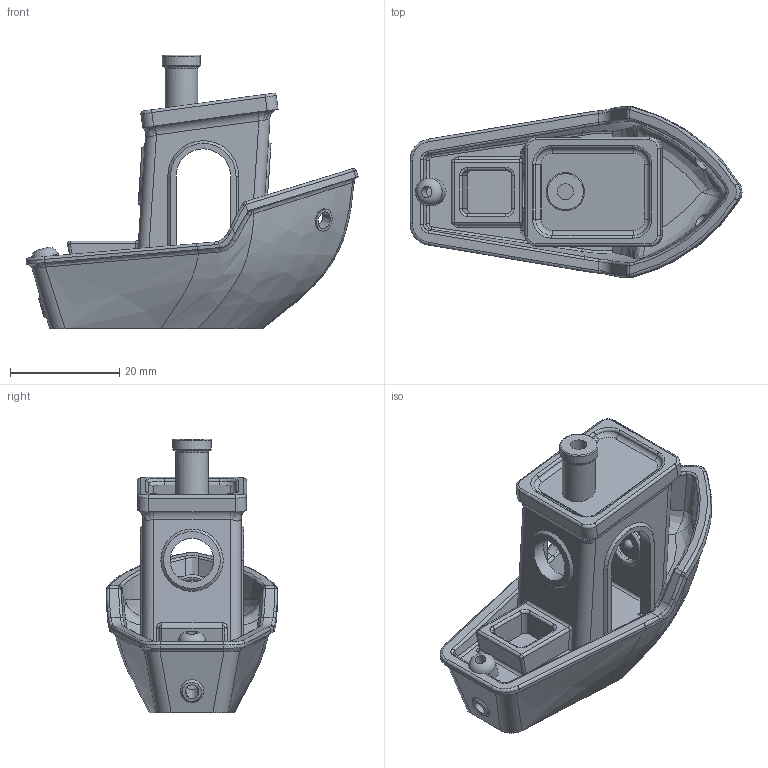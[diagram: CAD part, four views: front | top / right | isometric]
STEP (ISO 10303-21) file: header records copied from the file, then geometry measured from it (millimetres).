
FILE_DESCRIPTION(('HOOPS Exchange Step'),'2;1');
FILE_NAME('/Users/tariel/Library/Containers/com.shapr3d.shapr/Data/tmp/export/temp_export','2025-01-12T11:48:24-05:00',('tariel'),('Shapr3D Limited'),'HOOPS Exchange 2024.6','Shapr3D','Authorized');
FILE_SCHEMA( ('AP242_MANAGED_MODEL_BASED_3D_ENGINEERING_MIM_LF {1 0 10303 442 1 1 4 }') );
Length unit declared in the file: millimetre
Products named in the file (1): root
Bounding box: 60.85 x 31.4 x 50.2 mm (x, y, z)
Volume: 17300.1 mm3; surface area: 9778.7 mm2
Topology: 1 solids, 1 shells, 324 faces, 833 edges, 514 vertices
Faces by surface type: bspline 130, cylinder 88, plane 69, torus 22, offset 8, sphere 3, cone 3, extrusion 1
Full cylindrical faces by diameter (mm): 2 x1, 3 x1, 6 x2, 7 x1, 8 x2
Entity records: 29747 total; most frequent: CARTESIAN_POINT 22637, ORIENTED_EDGE 1658, DIRECTION 1188, EDGE_CURVE 829, VERTEX_POINT 514, AXIS2_PLACEMENT_3D 471, EDGE_LOOP 341, FACE_BOUND 341
